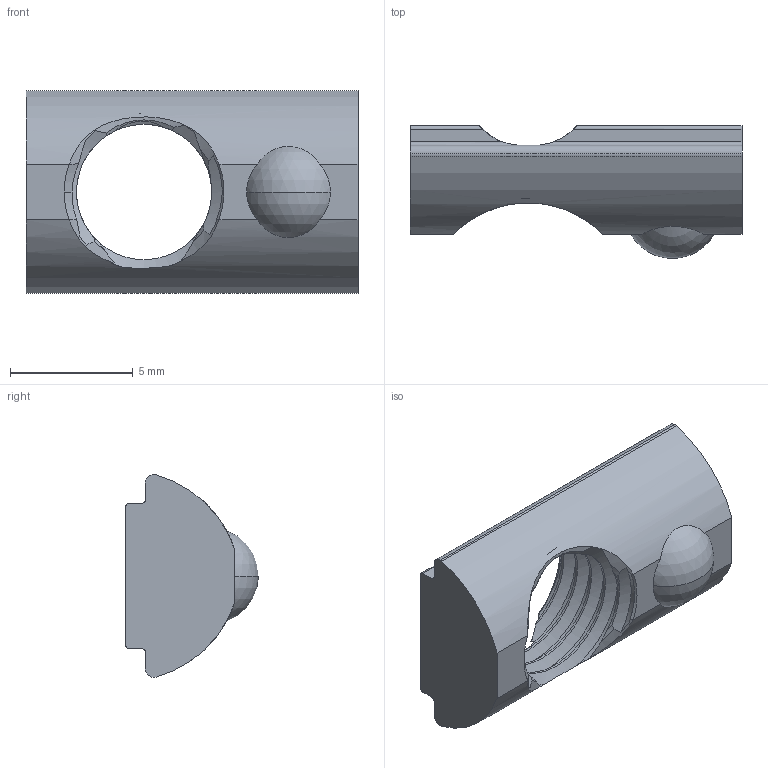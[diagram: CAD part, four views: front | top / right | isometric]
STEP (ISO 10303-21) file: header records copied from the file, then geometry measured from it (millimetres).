
FILE_DESCRIPTION (( 'STEP AP214' ), '1' );
FILE_NAME ('Spring Ball Loaded Nut - TV-Slot - 20 Series - M6.STEP', '2024-10-07T23:56:30', ( '' ), ( '' ), 'SwSTEP 2.0', 'SolidWorks 2024', '' );
FILE_SCHEMA (( 'AUTOMOTIVE_DESIGN' ));
Length unit declared in the file: millimetre
Products named in the file (1): Spring Ball Loaded Nut - TV-Slot - 20 Series - M6
Bounding box: 13.5 x 5.4 x 8.24 mm (x, y, z)
Volume: 264.2 mm3; surface area: 388.3 mm2
Topology: 1 solids, 1 shells, 73 faces, 211 edges, 138 vertices
Faces by surface type: cylinder 31, bspline 24, plane 13, cone 3, sphere 2
Entity records: 9285 total; most frequent: CARTESIAN_POINT 7675, ORIENTED_EDGE 422, DIRECTION 218, EDGE_CURVE 211, VERTEX_POINT 138, B_SPLINE_CURVE_WITH_KNOTS 97, AXIS2_PLACEMENT_3D 83, EDGE_LOOP 73
